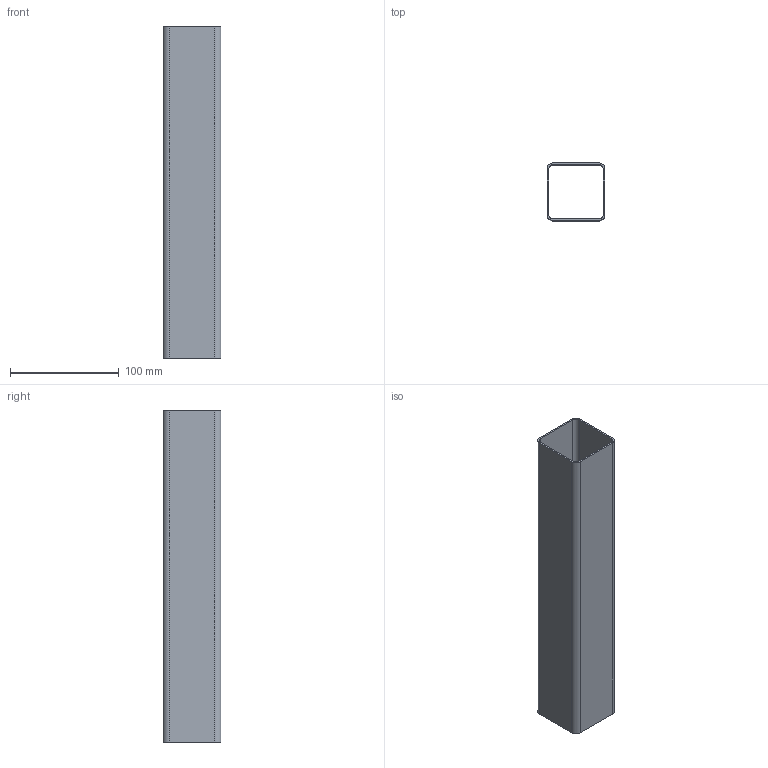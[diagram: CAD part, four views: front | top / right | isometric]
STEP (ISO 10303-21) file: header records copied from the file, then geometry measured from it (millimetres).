
FILE_DESCRIPTION (( 'STEP AP214' ), '1' );
FILE_NAME ('DRP-002-0001-02.STEP', '2011-12-07T21:16:24', ( 'Allred & Associates' ), ( 'Allred & Associates' ), 'SwSTEP 2.0', 'SolidWorks 2011', '' );
FILE_SCHEMA (( 'AUTOMOTIVE_DESIGN' ));
Length unit declared in the file: inch
Products named in the file (1): DRP-002-0001-02
Bounding box: 53.21 x 53.21 x 304.8 mm (x, y, z)
Volume: 95963.8 mm3; surface area: 121529 mm2
Topology: 1 solids, 1 shells, 18 faces, 48 edges, 32 vertices
Faces by surface type: plane 10, cylinder 8
Entity records: 612 total; most frequent: DIRECTION 102, CARTESIAN_POINT 99, ORIENTED_EDGE 96, EDGE_CURVE 48, AXIS2_PLACEMENT_3D 35, LINE 32, VECTOR 32, VERTEX_POINT 32
